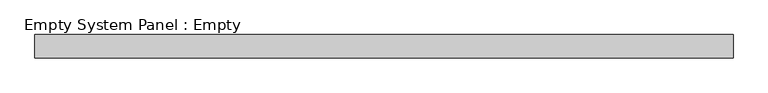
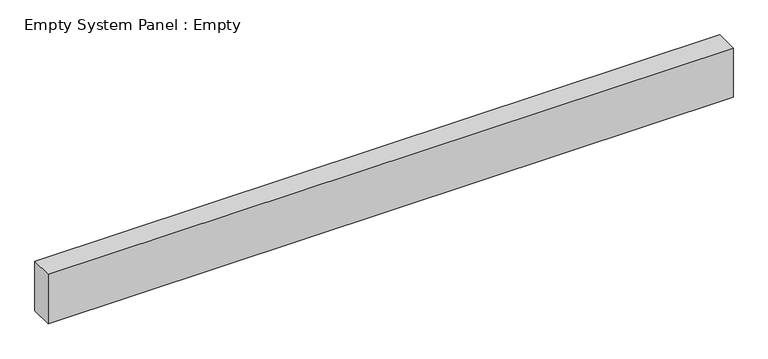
"""IFC4 building model written with IfcOpenShell, lengths in millimetres: plate geometry, Empty System Panel : Empty."""

from ifc_helpers import new_model, si_unit, origin, origin_with_axes, place, context, project, spatial, polyline, outline, extrude, source, transform, mapped, element, save


def empty_system_panel_empty_899e99c9(model_context):
    return source(origin(), model_context, "Body", "SweptSolid", [
        extrude(outline(polyline([(1500.0, -50.0), (-1500.0, -50.0), (-1500.0, 50.0), (1500.0, 50.0), (1500.0, -50.0)])), origin_with_axes(), (0.0, 0.0, 1.0), 228.25),
    ])


if __name__ == "__main__":
    model = new_model("IFC4")
    model_context = context("Model", 3, world=origin())
    ifc_project = project(units=[si_unit("LENGTHUNIT", "METRE", prefix="MILLI")], contexts=[model_context])
    site = spatial("IfcSite", under=ifc_project)
    building = spatial("IfcBuilding", under=site)
    placement = place(None, origin())
    empty_system_panel_empty_shape = empty_system_panel_empty_899e99c9(model_context)
    element("IfcPlate", 1, ObjectType="Empty System Panel : Empty", at=placement, inside=building, context=model_context, shape_type="MappedRepresentation", body=[
        mapped(empty_system_panel_empty_shape, transform((0.0, 0.0, 0.0), x_axis=(1.0, 0.0, 0.0), y_axis=(0.0, 1.0, 0.0), z_axis=(0.0, 0.0, 1.0))),
    ])
    save(model, "model.ifc")
